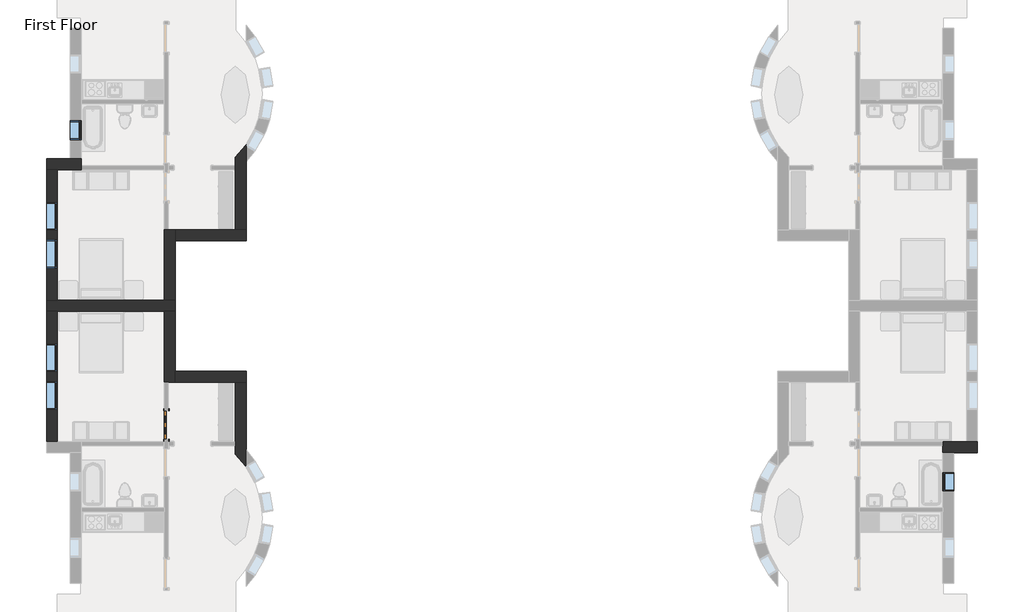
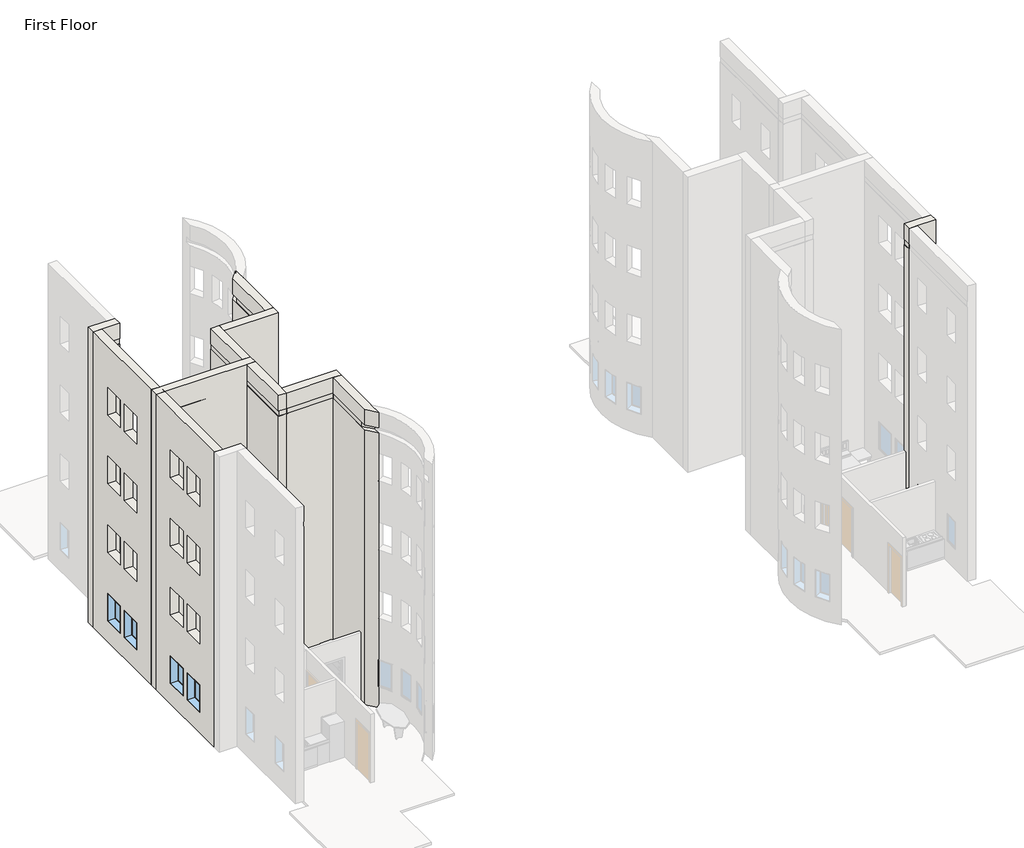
# One storey, part 8 of 24: 12 walls, 6 windows, 1 door.
"""IFC4 building model written with IfcOpenShell, lengths in millimetres."""

from ifc_helpers import new_model, si_unit, frame, origin, place, context, project, spatial, polyline, circle_curve, outline, extrude, faceted_brep, transform, mapped, element, save
from ifc_brep_helpers import plane_surface, revolved_surface, advanced_brep
from components import door_829da954, window_60baf983, window_15c49d37, window_0e2fc6ce

model = new_model("IFC4")

# Units and contexts
model_context = context("Model", 3, world=origin())
ifc_project = project(units=[si_unit("LENGTHUNIT", "METRE", prefix="MILLI")], contexts=[model_context])

# Site, building, storey
site = spatial("IfcSite", under=ifc_project)
building = spatial("IfcBuilding", under=site)
storey = spatial("IfcBuildingStorey", under=building, Name="First Floor", Elevation=0.0)

# Door
placement = place(None, origin())
door_shape = door_829da954(model_context)
element("IfcDoor", 1, ObjectType="Single-Decorative 2 : 36\" x 84\"", at=placement, inside=storey, context=model_context, shape_type="MappedRepresentation", body=[
    mapped(door_shape, transform((-26096.8839563, -15653.8558133, 0.0), x_axis=(0.0, -1.0, 0.0), y_axis=(1.0, 0.0, 0.0), z_axis=(0.0, 0.0, 1.0))),
])

# Walls
element("IfcWall", 2, ObjectType="Exterior - Brick on Mtl. Stud", at=placement, inside=storey, context=model_context, shape_type="Brep", body=[
    faceted_brep([(-29970.3839563, -11980.3808133, 0.0), (-29617.9589563, -11980.3808133, 0.0), (-26160.3839563, -11980.3808133, 0.0), (-25807.9589563, -11980.3808133, 0.0), (-25807.9589563, -11980.3808133, 13106.4), (-26160.3839563, -11980.3808133, 13106.4), (-29617.9589563, -11980.3808133, 13106.4), (-29970.3839563, -11980.3808133, 13106.4), (-25807.9589563, -11627.9558133, 0.0), (-26160.3839563, -11627.9558133, 0.0), (-29617.9589563, -11627.9558133, 0.0), (-29970.3839563, -11627.9558133, 0.0), (-29970.3839563, -11627.9558133, 13106.4), (-29617.9589563, -11627.9558133, 13106.4), (-26160.3839563, -11627.9558133, 13106.4), (-25807.9589563, -11627.9558133, 13106.4), (-29630.6589563, -11627.9558133, 12192.0), (-29617.9589563, -11627.9558133, 12192.0), (-26160.3839563, -11627.9558133, 12192.0), (-26147.6839563, -11627.9558133, 12192.0), (-26147.6839563, -11627.9558133, 12420.6), (-26160.3839563, -11627.9558133, 12420.6), (-29617.9589563, -11627.9558133, 12420.6), (-29630.6589563, -11627.9558133, 12420.6), (-29630.6589563, -11640.6558133, 12192.0), (-26147.6839563, -11640.6558133, 12192.0), (-26147.6839563, -11640.6558133, 12420.6), (-29630.6589563, -11640.6558133, 12420.6)], [[[0, 1, 2, 3, 4, 5, 6, 7]], [[8, 9, 10, 11, 12, 13, 14, 15], [16, 17, 18, 19, 20, 21, 22, 23]], [[3, 2, 1, 0, 11, 10, 9, 8]], [[7, 6, 5, 4, 15, 14, 13, 12]], [[4, 3, 8, 15]], [[0, 7, 12, 11]], [[24, 25, 19, 18, 17, 16]], [[26, 27, 23, 22, 21, 20]], [[25, 24, 27, 26]], [[27, 24, 16, 23]], [[25, 26, 20, 19]]]),
])
element("IfcWall", 3, ObjectType="Exterior - Brick on Mtl. Stud", at=placement, inside=storey, context=model_context, shape_type="Brep", body=[
    faceted_brep([(-25807.9589563, -11627.9558133, 0.0), (-25807.9589563, -9694.3808133, 0.0), (-25807.9589563, -9341.9558133, 0.0), (-25807.9589563, -9341.9558133, 12192.0), (-25807.9589563, -9354.6558133, 12192.0), (-25807.9589563, -9354.6558133, 12420.6), (-25807.9589563, -9341.9558133, 12420.6), (-25807.9589563, -9341.9558133, 13106.4), (-25807.9589563, -9694.3808133, 13106.4), (-25807.9589563, -11627.9558133, 13106.4), (-26160.3839563, -9341.9558133, 0.0), (-26160.3839563, -11627.9558133, 0.0), (-26160.3839563, -11627.9558133, 12192.0), (-26160.3839563, -9341.9558133, 12192.0), (-26160.3839563, -9341.9558133, 9144.0), (-26160.3839563, -9341.9558133, 6096.0), (-26160.3839563, -9341.9558133, 3048.0), (-26160.3839563, -11627.9558133, 13106.4), (-26160.3839563, -9341.9558133, 13106.4), (-26160.3839563, -9341.9558133, 12420.6), (-26160.3839563, -11627.9558133, 12420.6), (-26033.3839563, -9341.9558133, 0.0), (-26033.3839563, -9341.9558133, 12192.0), (-26147.6839563, -11627.9558133, 12420.6), (-26147.6839563, -11627.9558133, 12192.0), (-26147.6839563, -9354.6558133, 12192.0), (-26147.6839563, -9354.6558133, 12420.6)], [[[0, 1, 2, 3, 4, 5, 6, 7, 8, 9]], [[10, 11, 12, 13, 14, 15, 16]], [[17, 18, 19, 20]], [[2, 1, 0, 11, 10, 21]], [[9, 8, 7, 18, 17]], [[2, 21, 10, 16, 15, 14, 13, 22, 3]], [[18, 7, 6, 19]], [[0, 9, 17, 20, 23, 24, 12, 11]], [[24, 25, 4, 3, 22, 13, 12]], [[5, 26, 23, 20, 19, 6]], [[25, 26, 5, 4]], [[26, 25, 24, 23]]]),
])
element("IfcWall", 4, ObjectType="Exterior - Brick on Mtl. Stud", at=placement, inside=storey, context=model_context, shape_type="Brep", body=[
    faceted_brep([(-25807.9589563, -9694.3808133, 0.0), (-23521.9589563, -9694.3808133, 0.0), (-23521.9589563, -9694.3808133, 13106.4), (-25807.9589563, -9694.3808133, 13106.4), (-23521.9589563, -9341.9558133, 0.0), (-23874.3839563, -9341.9558133, 0.0), (-25807.9589563, -9341.9558133, 0.0), (-25807.9589563, -9341.9558133, 12192.0), (-23861.6839563, -9341.9558133, 12192.0), (-23861.6839563, -9341.9558133, 12420.6), (-25807.9589563, -9341.9558133, 12420.6), (-25807.9589563, -9341.9558133, 13106.4), (-23874.3839563, -9341.9558133, 13106.4), (-23521.9589563, -9341.9558133, 13106.4), (-25807.9589563, -9354.6558133, 12420.6), (-25807.9589563, -9354.6558133, 12192.0), (-23861.6839563, -9354.6558133, 12192.0), (-23861.6839563, -9354.6558133, 12420.6)], [[[0, 1, 2, 3]], [[4, 5, 6, 7, 8, 9, 10, 11, 12, 13]], [[1, 0, 6, 5, 4]], [[3, 2, 13, 12, 11]], [[2, 1, 4, 13]], [[0, 3, 11, 10, 14, 15, 7, 6]], [[15, 16, 8, 7]], [[9, 17, 14, 10]], [[16, 17, 9, 8]], [[17, 16, 15, 14]]]),
])
element("IfcWall", 5, ObjectType="Exterior - Brick on Mtl. Stud", at=placement, inside=storey, context=model_context, shape_type="AdvancedBrep", body=[
    advanced_brep(
    [(-23521.9589563, -9341.9558133, 0.0), (-23521.9589563, -7150.5535473, 0.0), (-23521.9589563, -6592.6589631, 0.0), (-23521.9589563, -6592.6589631, 914.4), (-23521.9589563, -6641.947211, 914.4), (-23521.9589563, -6641.947211, 2133.6), (-23521.9589563, -6592.6589631, 2133.6), (-23521.9589563, -6592.6589631, 3962.4), (-23521.9589563, -6641.947211, 3962.4), (-23521.9589563, -6641.947211, 5181.6), (-23521.9589563, -6592.6589631, 5181.6), (-23521.9589563, -6592.6589631, 7010.4), (-23521.9589563, -6641.947211, 7010.4), (-23521.9589563, -6641.947211, 8229.6), (-23521.9589563, -6592.6589631, 8229.6), (-23521.9589563, -6592.6589631, 10058.4), (-23521.9589563, -6641.947211, 10058.4), (-23521.9589563, -6641.947211, 11277.6), (-23521.9589563, -6592.6589631, 11277.6), (-23521.9589563, -6592.6589631, 12192.0), (-23521.9589563, -6901.1458841, 12192.0), (-23521.9589563, -6901.1458841, 12420.6), (-23521.9589563, -6592.6589631, 12420.6), (-23521.9589563, -6592.6589631, 13106.4), (-23521.9589563, -7150.5535473, 13106.4), (-23521.9589563, -9341.9558133, 13106.4), (-23874.3839563, -7006.552661, 0.0), (-23874.3839563, -7281.3808133, 0.0), (-23874.3839563, -7408.3808133, 0.0), (-23874.3839563, -9341.9558133, 0.0), (-23874.3839563, -9341.9558133, 12192.0), (-23874.3839563, -7408.3808133, 12192.0), (-23874.3839563, -7281.3808133, 12192.0), (-23874.3839563, -7006.552661, 12192.0), (-23874.3839563, -9341.9558133, 13106.4), (-23874.3839563, -7006.552661, 13106.4), (-23874.3839563, -7006.552661, 12420.6), (-23874.3839563, -9341.9558133, 12420.6), (-23527.515008, -6600.5704649, 11277.6), (-23527.515008, -6600.5704649, 10058.4), (-23527.515008, -6600.5704649, 8229.6), (-23527.515008, -6600.5704649, 7010.4), (-23527.515008, -6600.5704649, 5181.6), (-23527.515008, -6600.5704649, 3962.4), (-23527.515008, -6600.5704649, 2133.6), (-23527.515008, -6600.5704649, 914.4), (-23861.6839563, -9341.9558133, 12420.6), (-23861.6839563, -9341.9558133, 12192.0), (-23543.9721676, -6629.3664793, 2133.6), (-23543.9721676, -6629.3664793, 914.4), (-23543.9721676, -6629.3664793, 11277.6), (-23543.9721676, -6629.3664793, 10058.4), (-23543.9721676, -6629.3664793, 5181.6), (-23543.9721676, -6629.3664793, 3962.4), (-23543.9721676, -6629.3664793, 8229.6), (-23543.9721676, -6629.3664793, 7010.4), (-23861.6839563, -7249.4736866, 12192.0), (-23861.6839563, -7249.4736866, 12420.6)],
    [
        (0, 1),
        (1, 2),
        (2, 3),
        (3, 4),
        (4, 5),
        (5, 6),
        (6, 7),
        (7, 8),
        (8, 9),
        (9, 10),
        (10, 11),
        (11, 12),
        (12, 13),
        (13, 14),
        (14, 15),
        (15, 16),
        (16, 17),
        (17, 18),
        (18, 19),
        (19, 20),
        (20, 21),
        (21, 22),
        (22, 23),
        (23, 24),
        (24, 25),
        (25, 0),
        (26, 27),
        (27, 28),
        (28, 29),
        (29, 30),
        (30, 31),
        (31, 32),
        (32, 33),
        (33, 26),
        (34, 35),
        (35, 36),
        (36, 37),
        (37, 34),
        (0, 29),
        (26, 2, circle_curve(frame((-25874.8788413, -4946.1683133, 0.0), z_axis=(0.0, 0.0, 1.0), x_axis=(0.0, 1.0, 0.0)), 2871.7875)),
        (23, 35, circle_curve(frame((-25874.8788413, -4946.1683133, 13106.4), z_axis=(0.0, 0.0, -1.0), x_axis=(0.0, 1.0, 0.0)), 2871.7875)),
        (34, 25),
        (33, 19, circle_curve(frame((-25874.8788413, -4946.1683133, 12192.0), z_axis=(0.0, 0.0, 1.0), x_axis=(0.0, 1.0, 0.0)), 2871.7875)),
        (18, 38, circle_curve(frame((-25874.8788413, -4946.1683133, 11277.6), z_axis=(0.0, 0.0, -1.0), x_axis=(0.0, 1.0, 0.0)), 2871.7875)),
        (38, 39),
        (39, 15, circle_curve(frame((-25874.8788413, -4946.1683133, 10058.4), z_axis=(0.0, 0.0, 1.0), x_axis=(0.0, 1.0, 0.0)), 2871.7875)),
        (14, 40, circle_curve(frame((-25874.8788413, -4946.1683133, 8229.6), z_axis=(0.0, 0.0, -1.0), x_axis=(0.0, 1.0, 0.0)), 2871.7875)),
        (40, 41),
        (41, 11, circle_curve(frame((-25874.8788413, -4946.1683133, 7010.4), z_axis=(0.0, 0.0, 1.0), x_axis=(0.0, 1.0, 0.0)), 2871.7875)),
        (10, 42, circle_curve(frame((-25874.8788413, -4946.1683133, 5181.6), z_axis=(0.0, 0.0, -1.0), x_axis=(0.0, 1.0, 0.0)), 2871.7875)),
        (42, 43),
        (43, 7, circle_curve(frame((-25874.8788413, -4946.1683133, 3962.4), z_axis=(0.0, 0.0, 1.0), x_axis=(0.0, 1.0, 0.0)), 2871.7875)),
        (6, 44, circle_curve(frame((-25874.8788413, -4946.1683133, 2133.6), z_axis=(0.0, 0.0, -1.0), x_axis=(0.0, 1.0, 0.0)), 2871.7875)),
        (44, 45),
        (45, 3, circle_curve(frame((-25874.8788413, -4946.1683133, 914.4), z_axis=(0.0, 0.0, 1.0), x_axis=(0.0, 1.0, 0.0)), 2871.7875)),
        (22, 36, circle_curve(frame((-25874.8788413, -4946.1683133, 12420.6), z_axis=(0.0, 0.0, -1.0), x_axis=(0.0, 1.0, 0.0)), 2871.7875)),
        (37, 46),
        (46, 47),
        (47, 30),
        (48, 49),
        (49, 45),
        (44, 48),
        (49, 4),
        (48, 5),
        (50, 51),
        (51, 39),
        (38, 50),
        (51, 16),
        (50, 17),
        (52, 53),
        (53, 43),
        (42, 52),
        (53, 8),
        (52, 9),
        (54, 55),
        (55, 41),
        (40, 54),
        (55, 12),
        (54, 13),
        (47, 56),
        (56, 20, circle_curve(frame((-25874.8788413, -4946.1683133, 12192.0), z_axis=(0.0, 0.0, 1.0), x_axis=(0.0, -1.0, 0.0)), 3059.1125)),
        (21, 57, circle_curve(frame((-25874.8788413, -4946.1683133, 12420.6), z_axis=(0.0, 0.0, -1.0), x_axis=(0.0, -1.0, 0.0)), 3059.1125)),
        (57, 46),
        (56, 57),
    ],
    [
        plane_surface(frame((-23521.9589563, -9518.1683133, 0.0), z_axis=(1.0, 0.0, 0.0), x_axis=(0.0, 1.0, 0.0))),
        plane_surface(frame((-23874.3839563, -9518.1683133, 0.0), z_axis=(-1.0, 0.0, 0.0), x_axis=(0.0, -1.0, 0.0))),
        plane_surface(frame((-23521.9589563, -9518.1683133, 0.0), z_axis=(0.0, 0.0, -1.0), x_axis=(-1.0, 0.0, 0.0))),
        plane_surface(frame((-23521.9589563, -7079.7683133, 13106.4), z_axis=(0.0, 0.0, 1.0), x_axis=(-1.0, 0.0, 0.0))),
        revolved_surface(polyline([(-25874.8788413, -2074.3808132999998, 0.0), (-25874.8788413, -2074.3808132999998, 12192.0)]), (-25874.8788413, -4946.1683133, 0.0), (0.0, 0.0, -1.0)),
        revolved_surface(polyline([(-25874.8788413, -2074.3808132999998, 12420.6), (-25874.8788413, -2074.3808132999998, 13106.4)]), (-25874.8788413, -4946.1683133, 0.0), (0.0, 0.0, -1.0)),
        plane_surface(frame((-25984.1714563, -9341.9558133, 0.0), z_axis=(0.0, -1.0, 0.0), x_axis=(-1.0, 0.0, 0.0))),
        plane_surface(frame((-23241.4940834, -6100.1036253, 2133.6), z_axis=(0.8682133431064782, -0.496191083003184, 0.0), x_axis=(0.0, 0.0, -1.0))),
        plane_surface(frame((-23241.4940834, -6100.1036253, 914.4), z_axis=(0.0, 0.0, 1.0000000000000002), x_axis=(0.8682133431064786, -0.4961910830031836, 0.0))),
        plane_surface(frame((-23543.9721676, -6629.3664793, 914.4), z_axis=(0.49619108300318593, 0.8682133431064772, 0.0), x_axis=(0.8682133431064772, -0.49619108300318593, 0.0))),
        plane_surface(frame((-23543.9721676, -6629.3664793, 2133.6), z_axis=(0.0, 0.0, -1.0), x_axis=(0.8682133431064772, -0.49619108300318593, 0.0))),
        plane_surface(frame((-23241.4940834, -6100.1036253, 11277.6), z_axis=(0.8682133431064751, -0.4961910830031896, 0.0), x_axis=(0.0, 0.0, -1.0))),
        plane_surface(frame((-23241.4940834, -6100.1036253, 10058.4), z_axis=(0.0, 0.0, 1.0000000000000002), x_axis=(0.8682133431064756, -0.4961910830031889, 0.0))),
        plane_surface(frame((-23543.9721676, -6629.3664793, 10058.4), z_axis=(0.4961910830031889, 0.8682133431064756, 0.0), x_axis=(0.8682133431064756, -0.4961910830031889, 0.0))),
        plane_surface(frame((-23543.9721676, -6629.3664793, 11277.6), z_axis=(0.0, 0.0, -1.0000000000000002), x_axis=(0.8682133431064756, -0.4961910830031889, 0.0))),
        plane_surface(frame((-23241.4940834, -6100.1036253, 5181.6), z_axis=(0.8682133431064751, -0.4961910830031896, 0.0), x_axis=(0.0, 0.0, -1.0))),
        plane_surface(frame((-23241.4940834, -6100.1036253, 3962.4), z_axis=(0.0, 0.0, 1.0000000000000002), x_axis=(0.8682133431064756, -0.4961910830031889, 0.0))),
        plane_surface(frame((-23543.9721676, -6629.3664793, 3962.4), z_axis=(0.4961910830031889, 0.8682133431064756, 0.0), x_axis=(0.8682133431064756, -0.4961910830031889, 0.0))),
        plane_surface(frame((-23543.9721676, -6629.3664793, 5181.6), z_axis=(0.0, 0.0, -1.0000000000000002), x_axis=(0.8682133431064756, -0.4961910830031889, 0.0))),
        plane_surface(frame((-23241.4940834, -6100.1036253, 8229.6), z_axis=(0.8682133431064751, -0.4961910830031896, 0.0), x_axis=(0.0, 0.0, -1.0))),
        plane_surface(frame((-23241.4940834, -6100.1036253, 7010.4), z_axis=(0.0, 0.0, 1.0000000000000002), x_axis=(0.8682133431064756, -0.4961910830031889, 0.0))),
        plane_surface(frame((-23543.9721676, -6629.3664793, 7010.4), z_axis=(0.4961910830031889, 0.8682133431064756, 0.0), x_axis=(0.8682133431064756, -0.4961910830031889, 0.0))),
        plane_surface(frame((-23543.9721676, -6629.3664793, 8229.6), z_axis=(0.0, 0.0, -1.0000000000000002), x_axis=(0.8682133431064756, -0.4961910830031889, 0.0))),
        plane_surface(frame((-29630.6589563, -11640.6558133, 12192.0), z_axis=(0.0, 0.0, 1.0), x_axis=(1.0, 0.0, 0.0))),
        plane_surface(frame((-29630.6589563, -11640.6558133, 12420.6), z_axis=(0.0, 0.0, -1.0), x_axis=(1.0, 0.0, 0.0))),
        revolved_surface(polyline([(-25874.8788413, -8005.2808133, 12420.6), (-25874.8788413, -8005.2808133, 12192.0)]), (-25874.8788413, -4946.1683133, 12192.0), (0.0, 0.0, 1.0)),
        plane_surface(frame((-23861.6839563, -9354.6558133, 12192.0), z_axis=(-1.0, 0.0, 0.0), x_axis=(0.0, 1.0, 0.0))),
    ],
    [
        (0, [[1, 2, 3, 4, 5, 6, 7, 8, 9, 10, 11, 12, 13, 14, 15, 16, 17, 18, 19, 20, 21, 22, 23, 24, 25, 26]]),
        (1, [[27, 28, 29, 30, 31, 32, 33, 34]]),
        (1, [[35, 36, 37, 38]]),
        (2, [[-2, -1, 39, -29, -28, -27, 40]]),
        (3, [[-25, -24, 41, -35, 42]]),
        (4, [[-40, -34, 43, -19, 44, 45, 46, -15, 47, 48, 49, -11, 50, 51, 52, -7, 53, 54, 55, -3]]),
        (5, [[-41, -23, 56, -36]]),
        (6, [[-26, -42, -38, 57, 58, 59, -30, -39]]),
        (7, [[60, 61, -54, 62]]),
        (8, [[63, -4, -55, -61]]),
        (9, [[-60, 64, -5, -63]]),
        (10, [[-64, -62, -53, -6]]),
        (11, [[65, 66, -45, 67]]),
        (12, [[68, -16, -46, -66]]),
        (13, [[-65, 69, -17, -68]]),
        (14, [[-69, -67, -44, -18]]),
        (15, [[70, 71, -51, 72]]),
        (16, [[73, -8, -52, -71]]),
        (17, [[-70, 74, -9, -73]]),
        (18, [[-74, -72, -50, -10]]),
        (19, [[75, 76, -48, 77]]),
        (20, [[78, -12, -49, -76]]),
        (21, [[-75, 79, -13, -78]]),
        (22, [[-79, -77, -47, -14]]),
        (23, [[80, 81, -20, -43, -33, -32, -31, -59]]),
        (24, [[82, 83, -57, -37, -56, -22]]),
        (25, [[84, -82, -21, -81]]),
        (26, [[-84, -80, -58, -83]]),
    ],
),
])
element("IfcWall", 6, ObjectType="Exterior - Brick on Mtl. Stud", at=placement, inside=storey, context=model_context, shape_type="Brep", body=[
    faceted_brep([(-29617.9589563, -11627.9558133, 0.0), (-29617.9589563, -7408.3808133, 0.0), (-29617.9589563, -7408.3808133, 12192.0), (-29617.9589563, -11627.9558133, 12192.0), (-29617.9589563, -9365.7683133, 7010.4), (-29617.9589563, -9365.7683133, 8229.6), (-29617.9589563, -8451.3683133, 8229.6), (-29617.9589563, -8451.3683133, 7010.4), (-29617.9589563, -10584.9683133, 7010.4), (-29617.9589563, -10584.9683133, 8229.6), (-29617.9589563, -9670.5683133, 8229.6), (-29617.9589563, -9670.5683133, 7010.4), (-29617.9589563, -9365.7683133, 3962.4), (-29617.9589563, -9365.7683133, 5181.6), (-29617.9589563, -8451.3683133, 5181.6), (-29617.9589563, -8451.3683133, 3962.4), (-29617.9589563, -10584.9683133, 3962.4), (-29617.9589563, -10584.9683133, 5181.6), (-29617.9589563, -9670.5683133, 5181.6), (-29617.9589563, -9670.5683133, 3962.4), (-29617.9589563, -9365.7683133, 10058.4), (-29617.9589563, -9365.7683133, 11277.6), (-29617.9589563, -8451.3683133, 11277.6), (-29617.9589563, -8451.3683133, 10058.4), (-29617.9589563, -10584.9683133, 10058.4), (-29617.9589563, -10584.9683133, 11277.6), (-29617.9589563, -9670.5683133, 11277.6), (-29617.9589563, -9670.5683133, 10058.4), (-29617.9589563, -9365.7683133, 914.4), (-29617.9589563, -9365.7683133, 2133.6), (-29617.9589563, -8451.3683133, 2133.6), (-29617.9589563, -8451.3683133, 914.4), (-29617.9589563, -10584.9683133, 914.4), (-29617.9589563, -10584.9683133, 2133.6), (-29617.9589563, -9670.5683133, 2133.6), (-29617.9589563, -9670.5683133, 914.4), (-29617.9589563, -7408.3808133, 13106.4), (-29617.9589563, -11627.9558133, 13106.4), (-29617.9589563, -11627.9558133, 12420.6), (-29617.9589563, -7408.3808133, 12420.6), (-29970.3839563, -7408.3808133, 0.0), (-29970.3839563, -11627.9558133, 0.0), (-29970.3839563, -11627.9558133, 13106.4), (-29970.3839563, -7408.3808133, 13106.4), (-29970.3839563, -9365.7683133, 8229.6), (-29970.3839563, -9365.7683133, 7010.4), (-29970.3839563, -8451.3683133, 7010.4), (-29970.3839563, -8451.3683133, 8229.6), (-29970.3839563, -10584.9683133, 8229.6), (-29970.3839563, -10584.9683133, 7010.4), (-29970.3839563, -9670.5683133, 7010.4), (-29970.3839563, -9670.5683133, 8229.6), (-29970.3839563, -9365.7683133, 5181.6), (-29970.3839563, -9365.7683133, 3962.4), (-29970.3839563, -8451.3683133, 3962.4), (-29970.3839563, -8451.3683133, 5181.6), (-29970.3839563, -10584.9683133, 5181.6), (-29970.3839563, -10584.9683133, 3962.4), (-29970.3839563, -9670.5683133, 3962.4), (-29970.3839563, -9670.5683133, 5181.6), (-29970.3839563, -9365.7683133, 11277.6), (-29970.3839563, -9365.7683133, 10058.4), (-29970.3839563, -8451.3683133, 10058.4), (-29970.3839563, -8451.3683133, 11277.6), (-29970.3839563, -10584.9683133, 11277.6), (-29970.3839563, -10584.9683133, 10058.4), (-29970.3839563, -9670.5683133, 10058.4), (-29970.3839563, -9670.5683133, 11277.6), (-29970.3839563, -9365.7683133, 2133.6), (-29970.3839563, -9365.7683133, 914.4), (-29970.3839563, -8451.3683133, 914.4), (-29970.3839563, -8451.3683133, 2133.6), (-29970.3839563, -10584.9683133, 2133.6), (-29970.3839563, -10584.9683133, 914.4), (-29970.3839563, -9670.5683133, 914.4), (-29970.3839563, -9670.5683133, 2133.6), (-29630.6589563, -11627.9558133, 12192.0), (-29630.6589563, -11627.9558133, 12420.6), (-29630.6589563, -7408.3808133, 12420.6), (-29630.6589563, -7408.3808133, 12192.0)], [[[0, 1, 2, 3], [4, 5, 6, 7], [8, 9, 10, 11], [12, 13, 14, 15], [16, 17, 18, 19], [20, 21, 22, 23], [24, 25, 26, 27], [28, 29, 30, 31], [32, 33, 34, 35]], [[36, 37, 38, 39]], [[40, 41, 42, 43], [44, 45, 46, 47], [48, 49, 50, 51], [52, 53, 54, 55], [56, 57, 58, 59], [60, 61, 62, 63], [64, 65, 66, 67], [68, 69, 70, 71], [72, 73, 74, 75]], [[1, 0, 41, 40]], [[37, 36, 43, 42]], [[37, 42, 41, 0, 3, 76, 77, 38]], [[1, 40, 43, 36, 39, 78, 79, 2]], [[45, 44, 5, 4]], [[46, 45, 4, 7]], [[47, 46, 7, 6]], [[44, 47, 6, 5]], [[49, 48, 9, 8]], [[50, 49, 8, 11]], [[51, 50, 11, 10]], [[48, 51, 10, 9]], [[53, 52, 13, 12]], [[54, 53, 12, 15]], [[55, 54, 15, 14]], [[52, 55, 14, 13]], [[57, 56, 17, 16]], [[58, 57, 16, 19]], [[59, 58, 19, 18]], [[56, 59, 18, 17]], [[61, 60, 21, 20]], [[62, 61, 20, 23]], [[63, 62, 23, 22]], [[60, 63, 22, 21]], [[65, 64, 25, 24]], [[66, 65, 24, 27]], [[67, 66, 27, 26]], [[64, 67, 26, 25]], [[69, 68, 29, 28]], [[70, 69, 28, 31]], [[71, 70, 31, 30]], [[68, 71, 30, 29]], [[73, 72, 33, 32]], [[74, 73, 32, 35]], [[75, 74, 35, 34]], [[72, 75, 34, 33]], [[79, 76, 3, 2]], [[77, 78, 39, 38]], [[76, 79, 78, 77]]]),
])
element("IfcWall", 7, ObjectType="Exterior - Brick on Mtl. Stud", at=placement, inside=storey, context=model_context, shape_type="Brep", body=[
    faceted_brep([(-29970.3839563, -7408.3808133, 0.0), (-29617.9589563, -7408.3808133, 0.0), (-28855.9589563, -7408.3808133, 0.0), (-28855.9589563, -7408.3808133, 3048.0), (-28855.9589563, -7408.3808133, 6096.0), (-28855.9589563, -7408.3808133, 9144.0), (-28855.9589563, -7408.3808133, 12192.0), (-29617.9589563, -7408.3808133, 12192.0), (-29630.6589563, -7408.3808133, 12192.0), (-29630.6589563, -7408.3808133, 12420.6), (-29617.9589563, -7408.3808133, 12420.6), (-28855.9589563, -7408.3808133, 12420.6), (-28855.9589563, -7408.3808133, 13106.4), (-29617.9589563, -7408.3808133, 13106.4), (-29970.3839563, -7408.3808133, 13106.4), (-28855.9589563, -7055.9558133, 0.0), (-29208.3839563, -7055.9558133, 0.0), (-29970.3839563, -7055.9558133, 0.0), (-29970.3839563, -7055.9558133, 13106.4), (-29208.3839563, -7055.9558133, 13106.4), (-28855.9589563, -7055.9558133, 13106.4), (-28855.9589563, -7055.9558133, 12420.6), (-28868.6589563, -7055.9558133, 12420.6), (-28868.6589563, -7055.9558133, 12192.0), (-28855.9589563, -7055.9558133, 12192.0), (-28855.9589563, -7281.3808133, 0.0), (-28855.9589563, -7281.3808133, 12192.0), (-28868.6589563, -7395.6808133, 12192.0), (-29630.6589563, -7395.6808133, 12192.0), (-29630.6589563, -7395.6808133, 12420.6), (-28868.6589563, -7395.6808133, 12420.6)], [[[0, 1, 2, 3, 4, 5, 6, 7, 8, 9, 10, 11, 12, 13, 14]], [[15, 16, 17, 18, 19, 20, 21, 22, 23, 24]], [[2, 1, 0, 17, 16, 15, 25]], [[14, 13, 12, 20, 19, 18]], [[0, 14, 18, 17]], [[2, 25, 15, 24, 26, 6, 5, 4, 3]], [[20, 12, 11, 21]], [[27, 28, 8, 7, 6, 26, 24, 23]], [[29, 30, 22, 21, 11, 10, 9]], [[28, 29, 9, 8]], [[28, 27, 30, 29]], [[30, 27, 23, 22]]]),
])
element("IfcWall", 8, ObjectType="Exterior - Brick on Mtl. Stud", at=placement, inside=storey, context=model_context, shape_type="Brep", body=[
    faceted_brep([(100.0410437, -16199.9558133, 0.0), (-252.3839563, -16199.9558133, 0.0), (-1014.3839563, -16199.9558133, 0.0), (-1014.3839563, -16199.9558133, 3048.0), (-1014.3839563, -16199.9558133, 6096.0), (-1014.3839563, -16199.9558133, 9144.0), (-1014.3839563, -16199.9558133, 12192.0), (-252.3839563, -16199.9558133, 12192.0), (-239.6839563, -16199.9558133, 12192.0), (-239.6839563, -16199.9558133, 12420.6), (-252.3839563, -16199.9558133, 12420.6), (-1014.3839563, -16199.9558133, 12420.6), (-1014.3839563, -16199.9558133, 13106.4), (-252.3839563, -16199.9558133, 13106.4), (100.0410437, -16199.9558133, 13106.4), (-1014.3839563, -16552.3808133, 0.0), (-661.9589563, -16552.3808133, 0.0), (100.0410437, -16552.3808133, 0.0), (100.0410437, -16552.3808133, 13106.4), (-661.9589563, -16552.3808133, 13106.4), (-1014.3839563, -16552.3808133, 13106.4), (-1014.3839563, -16552.3808133, 12420.6), (-1001.6839563, -16552.3808133, 12420.6), (-1001.6839563, -16552.3808133, 12192.0), (-1014.3839563, -16552.3808133, 12192.0), (-1014.3839563, -16326.9558133, 0.0), (-1014.3839563, -16326.9558133, 12192.0), (-1001.6839563, -16212.6558133, 12192.0), (-239.6839563, -16212.6558133, 12192.0), (-239.6839563, -16212.6558133, 12420.6), (-1001.6839563, -16212.6558133, 12420.6)], [[[0, 1, 2, 3, 4, 5, 6, 7, 8, 9, 10, 11, 12, 13, 14]], [[15, 16, 17, 18, 19, 20, 21, 22, 23, 24]], [[2, 1, 0, 17, 16, 15, 25]], [[14, 13, 12, 20, 19, 18]], [[0, 14, 18, 17]], [[2, 25, 15, 24, 26, 6, 5, 4, 3]], [[20, 12, 11, 21]], [[27, 28, 8, 7, 6, 26, 24, 23]], [[29, 30, 22, 21, 11, 10, 9]], [[28, 29, 9, 8]], [[28, 27, 30, 29]], [[30, 27, 23, 22]]]),
])
element("IfcWall", 9, ObjectType="Exterior - Brick on Mtl. Stud", at=placement, inside=storey, context=model_context, shape_type="SweptSolid", body=[
    extrude(outline(polyline([(-11980.3808133, 13106.4), (-11627.9558133, 13106.4), (-11627.9558133, 0.0), (-11980.3808133, 0.0), (-11980.3808133, 12192.0), (-11967.6808133, 12192.0), (-11967.6808133, 12420.6), (-11980.3808133, 12420.6), (-11980.3808133, 13106.4)])), frame((-29617.9589563, 0.0, 0.0), z_axis=(1.0, 0.0, 0.0), x_axis=(0.0, 1.0, 0.0)), (0.0, 0.0, 1.0), 3457.575),
])
element("IfcWall", 10, ObjectType="Exterior - Brick on Mtl. Stud", at=placement, inside=storey, context=model_context, shape_type="Brep", body=[
    faceted_brep([(-26160.3839563, -11980.3808133, 0.0), (-26160.3839563, -14266.3808133, 0.0), (-26160.3839563, -14266.3808133, 3048.0), (-26160.3839563, -14266.3808133, 6096.0), (-26160.3839563, -14266.3808133, 9144.0), (-26160.3839563, -14266.3808133, 12192.0), (-26160.3839563, -11980.3808133, 12192.0), (-26160.3839563, -14266.3808133, 13106.4), (-26160.3839563, -11980.3808133, 13106.4), (-26160.3839563, -11980.3808133, 12420.6), (-26160.3839563, -14266.3808133, 12420.6), (-25807.9589563, -14266.3808133, 0.0), (-25807.9589563, -13913.9558133, 0.0), (-25807.9589563, -11980.3808133, 0.0), (-25807.9589563, -11980.3808133, 13106.4), (-25807.9589563, -13913.9558133, 13106.4), (-25807.9589563, -14266.3808133, 13106.4), (-25807.9589563, -14266.3808133, 12420.6), (-25807.9589563, -14253.6808133, 12420.6), (-25807.9589563, -14253.6808133, 12192.0), (-25807.9589563, -14266.3808133, 12192.0), (-26033.3839563, -14266.3808133, 0.0), (-26033.3839563, -14266.3808133, 12192.0), (-26147.6839563, -11980.3808133, 12192.0), (-26147.6839563, -11980.3808133, 12420.6), (-26147.6839563, -14253.6808133, 12192.0), (-26147.6839563, -14253.6808133, 12420.6)], [[[0, 1, 2, 3, 4, 5, 6]], [[7, 8, 9, 10]], [[11, 12, 13, 14, 15, 16, 17, 18, 19, 20]], [[1, 0, 13, 12, 11, 21]], [[8, 7, 16, 15, 14]], [[1, 21, 11, 20, 22, 5, 4, 3, 2]], [[16, 7, 10, 17]], [[8, 14, 13, 0, 6, 23, 24, 9]], [[19, 25, 23, 6, 5, 22, 20]], [[24, 26, 18, 17, 10, 9]], [[26, 25, 19, 18]], [[25, 26, 24, 23]]]),
])
element("IfcWall", 11, ObjectType="Exterior - Brick on Mtl. Stud", at=placement, inside=storey, context=model_context, shape_type="Brep", body=[
    faceted_brep([(-25807.9589563, -14266.3808133, 0.0), (-23874.3839563, -14266.3808133, 0.0), (-23521.9589563, -14266.3808133, 0.0), (-23521.9589563, -14266.3808133, 13106.4), (-23874.3839563, -14266.3808133, 13106.4), (-25807.9589563, -14266.3808133, 13106.4), (-25807.9589563, -14266.3808133, 12420.6), (-23874.3839563, -14266.3808133, 12420.6), (-23861.6839563, -14266.3808133, 12420.6), (-23861.6839563, -14266.3808133, 12192.0), (-23874.3839563, -14266.3808133, 12192.0), (-25807.9589563, -14266.3808133, 12192.0), (-23521.9589563, -13913.9558133, 0.0), (-25807.9589563, -13913.9558133, 0.0), (-25807.9589563, -13913.9558133, 13106.4), (-23521.9589563, -13913.9558133, 13106.4), (-25807.9589563, -14253.6808133, 12192.0), (-25807.9589563, -14253.6808133, 12420.6), (-23861.6839563, -14253.6808133, 12192.0), (-23861.6839563, -14253.6808133, 12420.6)], [[[0, 1, 2, 3, 4, 5, 6, 7, 8, 9, 10, 11]], [[12, 13, 14, 15]], [[2, 1, 0, 13, 12]], [[5, 4, 3, 15, 14]], [[3, 2, 12, 15]], [[5, 14, 13, 0, 11, 16, 17, 6]], [[9, 18, 16, 11, 10]], [[17, 19, 8, 7, 6]], [[19, 18, 9, 8]], [[18, 19, 17, 16]]]),
])
element("IfcWall", 12, ObjectType="Exterior - Brick on Mtl. Stud", at=placement, inside=storey, context=model_context, shape_type="AdvancedBrep", body=[
    advanced_brep(
    [(-23874.3839563, -14266.3808133, 0.0), (-23874.3839563, -16199.9558133, 0.0), (-23874.3839563, -16326.9558133, 0.0), (-23874.3839563, -16601.7839656, 0.0), (-23874.3839563, -16601.7839656, 12192.0), (-23874.3839563, -16326.9558133, 12192.0), (-23874.3839563, -16199.9558133, 12192.0), (-23874.3839563, -14266.3808133, 12192.0), (-23874.3839563, -16601.7839656, 13106.4), (-23874.3839563, -14266.3808133, 13106.4), (-23874.3839563, -14266.3808133, 12420.6), (-23874.3839563, -16601.7839656, 12420.6), (-23521.9589563, -17015.6776635, 0.0), (-23521.9589563, -16457.7830793, 0.0), (-23521.9589563, -14266.3808133, 0.0), (-23521.9589563, -14266.3808133, 13106.4), (-23521.9589563, -16457.7830793, 13106.4), (-23521.9589563, -17015.6776635, 13106.4), (-23521.9589563, -17015.6776635, 12420.6), (-23521.9589563, -16707.1907425, 12420.6), (-23521.9589563, -16707.1907425, 12192.0), (-23521.9589563, -17015.6776635, 12192.0), (-23521.9589563, -17015.6776635, 11277.6), (-23521.9589563, -16966.3894156, 11277.6), (-23521.9589563, -16966.3894156, 10058.4), (-23521.9589563, -17015.6776635, 10058.4), (-23521.9589563, -17015.6776635, 8229.6), (-23521.9589563, -16966.3894156, 8229.6), (-23521.9589563, -16966.3894156, 7010.4), (-23521.9589563, -17015.6776635, 7010.4), (-23521.9589563, -17015.6776635, 5181.6), (-23521.9589563, -16966.3894156, 5181.6), (-23521.9589563, -16966.3894156, 3962.4), (-23521.9589563, -17015.6776635, 3962.4), (-23521.9589563, -17015.6776635, 2133.6), (-23521.9589563, -16966.3894156, 2133.6), (-23521.9589563, -16966.3894156, 914.4), (-23521.9589563, -17015.6776635, 914.4), (-23527.428547, -17007.8888446, 914.4), (-23527.428547, -17007.8888446, 2133.6), (-23527.428547, -17007.8888446, 3962.4), (-23527.428547, -17007.8888446, 5181.6), (-23527.428547, -17007.8888446, 7010.4), (-23527.428547, -17007.8888446, 8229.6), (-23527.428547, -17007.8888446, 10058.4), (-23527.428547, -17007.8888446, 11277.6), (-23861.6839563, -14266.3808133, 12192.0), (-23861.6839563, -14266.3808133, 12420.6), (-23543.9598455, -16978.9631051, 914.4), (-23543.9598455, -16978.9631051, 2133.6), (-23543.9598455, -16978.9631051, 10058.4), (-23543.9598455, -16978.9631051, 11277.6), (-23543.9598455, -16978.9631051, 3962.4), (-23543.9598455, -16978.9631051, 5181.6), (-23543.9598455, -16978.9631051, 7010.4), (-23543.9598455, -16978.9631051, 8229.6), (-23861.6839563, -16358.86294, 12192.0), (-23861.6839563, -16358.86294, 12420.6)],
    [
        (0, 1),
        (1, 2),
        (2, 3),
        (3, 4),
        (4, 5),
        (5, 6),
        (6, 7),
        (7, 0),
        (8, 9),
        (9, 10),
        (10, 11),
        (11, 8),
        (12, 13),
        (13, 14),
        (14, 15),
        (15, 16),
        (16, 17),
        (17, 18),
        (18, 19),
        (19, 20),
        (20, 21),
        (21, 22),
        (22, 23),
        (23, 24),
        (24, 25),
        (25, 26),
        (26, 27),
        (27, 28),
        (28, 29),
        (29, 30),
        (30, 31),
        (31, 32),
        (32, 33),
        (33, 34),
        (34, 35),
        (35, 36),
        (36, 37),
        (37, 12),
        (0, 14),
        (12, 3, circle_curve(frame((-25874.8788413, -18662.1683133, 0.0), z_axis=(0.0, 0.0, 1.0), x_axis=(0.0, -1.0, 0.0)), 2871.7875)),
        (8, 17, circle_curve(frame((-25874.8788413, -18662.1683133, 13106.4), z_axis=(0.0, 0.0, -1.0), x_axis=(0.0, -1.0, 0.0)), 2871.7875)),
        (15, 9),
        (37, 38, circle_curve(frame((-25874.8788413, -18662.1683133, 914.4), z_axis=(0.0, 0.0, 1.0), x_axis=(0.0, -1.0, 0.0)), 2871.7875)),
        (38, 39),
        (39, 34, circle_curve(frame((-25874.8788413, -18662.1683133, 2133.6), z_axis=(0.0, 0.0, -1.0), x_axis=(0.0, -1.0, 0.0)), 2871.7875)),
        (33, 40, circle_curve(frame((-25874.8788413, -18662.1683133, 3962.4), z_axis=(0.0, 0.0, 1.0), x_axis=(0.0, -1.0, 0.0)), 2871.7875)),
        (40, 41),
        (41, 30, circle_curve(frame((-25874.8788413, -18662.1683133, 5181.6), z_axis=(0.0, 0.0, -1.0), x_axis=(0.0, -1.0, 0.0)), 2871.7875)),
        (29, 42, circle_curve(frame((-25874.8788413, -18662.1683133, 7010.4), z_axis=(0.0, 0.0, 1.0), x_axis=(0.0, -1.0, 0.0)), 2871.7875)),
        (42, 43),
        (43, 26, circle_curve(frame((-25874.8788413, -18662.1683133, 8229.6), z_axis=(0.0, 0.0, -1.0), x_axis=(0.0, -1.0, 0.0)), 2871.7875)),
        (25, 44, circle_curve(frame((-25874.8788413, -18662.1683133, 10058.4), z_axis=(0.0, 0.0, 1.0), x_axis=(0.0, -1.0, 0.0)), 2871.7875)),
        (44, 45),
        (45, 22, circle_curve(frame((-25874.8788413, -18662.1683133, 11277.6), z_axis=(0.0, 0.0, -1.0), x_axis=(0.0, -1.0, 0.0)), 2871.7875)),
        (21, 4, circle_curve(frame((-25874.8788413, -18662.1683133, 12192.0), z_axis=(0.0, 0.0, 1.0), x_axis=(0.0, -1.0, 0.0)), 2871.7875)),
        (11, 18, circle_curve(frame((-25874.8788413, -18662.1683133, 12420.6), z_axis=(0.0, 0.0, -1.0), x_axis=(0.0, -1.0, 0.0)), 2871.7875)),
        (7, 46),
        (46, 47),
        (47, 10),
        (48, 49),
        (49, 39),
        (38, 48),
        (36, 48),
        (35, 49),
        (50, 51),
        (51, 45),
        (44, 50),
        (24, 50),
        (23, 51),
        (52, 53),
        (53, 41),
        (40, 52),
        (32, 52),
        (31, 53),
        (54, 55),
        (55, 43),
        (42, 54),
        (28, 54),
        (27, 55),
        (20, 56, circle_curve(frame((-25874.8788413, -18662.1683133, 12192.0), z_axis=(0.0, 0.0, 1.0), x_axis=(0.0, -1.0, 0.0)), 3059.1125)),
        (56, 46),
        (47, 57),
        (57, 19, circle_curve(frame((-25874.8788413, -18662.1683133, 12420.6), z_axis=(0.0, 0.0, -1.0), x_axis=(0.0, -1.0, 0.0)), 3059.1125)),
        (57, 56),
    ],
    [
        plane_surface(frame((-23874.3839563, -14090.1683133, 0.0), z_axis=(-1.0, 0.0, 0.0), x_axis=(0.0, -1.0, 0.0))),
        plane_surface(frame((-23521.9589563, -14090.1683133, 0.0), z_axis=(1.0, 0.0, 0.0), x_axis=(0.0, 1.0, 0.0))),
        plane_surface(frame((-23874.3839563, -14090.1683133, 0.0), z_axis=(0.0, 0.0, -1.0), x_axis=(1.0, 0.0, 0.0))),
        plane_surface(frame((-23874.3839563, -16528.5683133, 13106.4), z_axis=(0.0, 0.0, 1.0), x_axis=(1.0, 0.0, 0.0))),
        revolved_surface(polyline([(-25874.8788413, -21533.9558133, 0.0), (-25874.8788413, -21533.9558133, 12192.0)]), (-25874.8788413, -18662.1683133, 0.0), (0.0, 0.0, -1.0)),
        revolved_surface(polyline([(-25874.8788413, -21533.9558133, 12420.6), (-25874.8788413, -21533.9558133, 13106.4)]), (-25874.8788413, -18662.1683133, 0.0), (0.0, 0.0, -1.0)),
        plane_surface(frame((-25984.1714563, -14266.3808133, 0.0), z_axis=(0.0, 1.0, 0.0), x_axis=(1.0, 0.0, 0.0))),
        plane_surface(frame((-23241.4817613, -17508.2259591, 2133.6), z_axis=(0.8682133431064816, 0.4961910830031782, 0.0), x_axis=(0.0, 0.0, 1.0))),
        plane_surface(frame((-22936.8719855, -17334.1389611, 914.4), z_axis=(0.0, 0.0, 1.0), x_axis=(-0.8682133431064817, -0.496191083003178, 0.0))),
        plane_surface(frame((-23239.3500697, -16804.8761071, 914.4), z_axis=(0.496191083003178, -0.8682133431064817, 0.0), x_axis=(-0.8682133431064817, -0.496191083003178, 0.0))),
        plane_surface(frame((-23239.3500697, -16804.8761071, 2133.6), z_axis=(0.0, 0.0, -1.0), x_axis=(-0.8682133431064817, -0.496191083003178, 0.0))),
        plane_surface(frame((-23241.4817613, -17508.2259591, 11277.6), z_axis=(0.8682133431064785, 0.4961910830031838, 0.0), x_axis=(0.0, 0.0, 1.0))),
        plane_surface(frame((-22936.8719855, -17334.1389611, 10058.4), z_axis=(0.0, 0.0, 1.0000000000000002), x_axis=(-0.8682133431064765, -0.49619108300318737, 0.0))),
        plane_surface(frame((-23239.3500697, -16804.8761071, 10058.4), z_axis=(0.4961910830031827, -0.868213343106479, 0.0), x_axis=(-0.868213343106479, -0.4961910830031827, 0.0))),
        plane_surface(frame((-23239.3500697, -16804.8761071, 11277.6), z_axis=(0.0, 0.0, -1.0), x_axis=(-0.868213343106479, -0.4961910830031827, 0.0))),
        plane_surface(frame((-23241.4817613, -17508.2259591, 5181.6), z_axis=(0.8682133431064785, 0.4961910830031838, 0.0), x_axis=(0.0, 0.0, 1.0))),
        plane_surface(frame((-22936.8719855, -17334.1389611, 3962.4), z_axis=(0.0, 0.0, 1.0000000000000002), x_axis=(-0.8682133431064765, -0.49619108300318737, 0.0))),
        plane_surface(frame((-23239.3500697, -16804.8761071, 3962.4), z_axis=(0.4961910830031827, -0.868213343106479, 0.0), x_axis=(-0.868213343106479, -0.4961910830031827, 0.0))),
        plane_surface(frame((-23239.3500697, -16804.8761071, 5181.6), z_axis=(0.0, 0.0, -1.0), x_axis=(-0.868213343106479, -0.4961910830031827, 0.0))),
        plane_surface(frame((-23241.4817613, -17508.2259591, 8229.6), z_axis=(0.8682133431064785, 0.4961910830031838, 0.0), x_axis=(0.0, 0.0, 1.0))),
        plane_surface(frame((-22936.8719855, -17334.1389611, 7010.4), z_axis=(0.0, 0.0, 1.0000000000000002), x_axis=(-0.8682133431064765, -0.49619108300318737, 0.0))),
        plane_surface(frame((-23239.3500697, -16804.8761071, 7010.4), z_axis=(0.4961910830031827, -0.868213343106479, 0.0), x_axis=(-0.868213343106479, -0.4961910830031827, 0.0))),
        plane_surface(frame((-23239.3500697, -16804.8761071, 8229.6), z_axis=(0.0, 0.0, -1.0), x_axis=(-0.868213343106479, -0.4961910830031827, 0.0))),
        plane_surface(frame((-29630.6589563, -11967.6808133, 12192.0), z_axis=(0.0, 0.0, 1.0), x_axis=(1.0, 0.0, 0.0))),
        plane_surface(frame((-29630.6589563, -11967.6808133, 12420.6), z_axis=(0.0, 0.0, -1.0), x_axis=(1.0, 0.0, 0.0))),
        revolved_surface(polyline([(-25874.8788413, -21721.2808133, 12420.6), (-25874.8788413, -21721.2808133, 12192.0)]), (-25874.8788413, -18662.1683133, 12192.0), (0.0, 0.0, 1.0)),
        plane_surface(frame((-23861.6839563, -16358.86294, 12192.0), z_axis=(-1.0, 0.0, 0.0), x_axis=(0.0, 1.0, 0.0))),
    ],
    [
        (0, [[1, 2, 3, 4, 5, 6, 7, 8]]),
        (0, [[9, 10, 11, 12]]),
        (1, [[13, 14, 15, 16, 17, 18, 19, 20, 21, 22, 23, 24, 25, 26, 27, 28, 29, 30, 31, 32, 33, 34, 35, 36, 37, 38]]),
        (2, [[-3, -2, -1, 39, -14, -13, 40]]),
        (3, [[-9, 41, -17, -16, 42]]),
        (4, [[-40, -38, 43, 44, 45, -34, 46, 47, 48, -30, 49, 50, 51, -26, 52, 53, 54, -22, 55, -4]]),
        (5, [[-41, -12, 56, -18]]),
        (6, [[-42, -15, -39, -8, 57, 58, 59, -10]]),
        (7, [[60, 61, -44, 62]]),
        (8, [[63, -62, -43, -37]]),
        (9, [[-60, -63, -36, 64]]),
        (10, [[-64, -35, -45, -61]]),
        (11, [[65, 66, -53, 67]]),
        (12, [[68, -67, -52, -25]]),
        (13, [[-65, -68, -24, 69]]),
        (14, [[-69, -23, -54, -66]]),
        (15, [[70, 71, -47, 72]]),
        (16, [[73, -72, -46, -33]]),
        (17, [[-70, -73, -32, 74]]),
        (18, [[-74, -31, -48, -71]]),
        (19, [[75, 76, -50, 77]]),
        (20, [[78, -77, -49, -29]]),
        (21, [[-75, -78, -28, 79]]),
        (22, [[-79, -27, -51, -76]]),
        (23, [[80, 81, -57, -7, -6, -5, -55, -21]]),
        (24, [[82, 83, -19, -56, -11, -59]]),
        (25, [[84, -80, -20, -83]]),
        (26, [[-84, -82, -58, -81]]),
    ],
),
])
element("IfcWall", 13, ObjectType="Exterior - Brick on Mtl. Stud", at=placement, inside=storey, context=model_context, shape_type="Brep", body=[
    faceted_brep([(-29970.3839563, -11980.3808133, 0.0), (-29970.3839563, -16199.9558133, 0.0), (-29970.3839563, -16199.9558133, 13106.4), (-29970.3839563, -11980.3808133, 13106.4), (-29970.3839563, -13023.3683133, 914.4), (-29970.3839563, -13023.3683133, 2133.6), (-29970.3839563, -13937.7683133, 2133.6), (-29970.3839563, -13937.7683133, 914.4), (-29970.3839563, -14242.5683133, 914.4), (-29970.3839563, -14242.5683133, 2133.6), (-29970.3839563, -15156.9683133, 2133.6), (-29970.3839563, -15156.9683133, 914.4), (-29970.3839563, -13023.3683133, 10058.4), (-29970.3839563, -13023.3683133, 11277.6), (-29970.3839563, -13937.7683133, 11277.6), (-29970.3839563, -13937.7683133, 10058.4), (-29970.3839563, -14242.5683133, 10058.4), (-29970.3839563, -14242.5683133, 11277.6), (-29970.3839563, -15156.9683133, 11277.6), (-29970.3839563, -15156.9683133, 10058.4), (-29970.3839563, -13023.3683133, 3962.4), (-29970.3839563, -13023.3683133, 5181.6), (-29970.3839563, -13937.7683133, 5181.6), (-29970.3839563, -13937.7683133, 3962.4), (-29970.3839563, -14242.5683133, 3962.4), (-29970.3839563, -14242.5683133, 5181.6), (-29970.3839563, -15156.9683133, 5181.6), (-29970.3839563, -15156.9683133, 3962.4), (-29970.3839563, -13023.3683133, 7010.4), (-29970.3839563, -13023.3683133, 8229.6), (-29970.3839563, -13937.7683133, 8229.6), (-29970.3839563, -13937.7683133, 7010.4), (-29970.3839563, -14242.5683133, 7010.4), (-29970.3839563, -14242.5683133, 8229.6), (-29970.3839563, -15156.9683133, 8229.6), (-29970.3839563, -15156.9683133, 7010.4), (-29617.9589563, -16199.9558133, 0.0), (-29617.9589563, -11980.3808133, 0.0), (-29617.9589563, -11980.3808133, 12192.0), (-29617.9589563, -16199.9558133, 12192.0), (-29617.9589563, -13023.3683133, 2133.6), (-29617.9589563, -13023.3683133, 914.4), (-29617.9589563, -13937.7683133, 914.4), (-29617.9589563, -13937.7683133, 2133.6), (-29617.9589563, -14242.5683133, 2133.6), (-29617.9589563, -14242.5683133, 914.4), (-29617.9589563, -15156.9683133, 914.4), (-29617.9589563, -15156.9683133, 2133.6), (-29617.9589563, -13023.3683133, 11277.6), (-29617.9589563, -13023.3683133, 10058.4), (-29617.9589563, -13937.7683133, 10058.4), (-29617.9589563, -13937.7683133, 11277.6), (-29617.9589563, -14242.5683133, 11277.6), (-29617.9589563, -14242.5683133, 10058.4), (-29617.9589563, -15156.9683133, 10058.4), (-29617.9589563, -15156.9683133, 11277.6), (-29617.9589563, -13023.3683133, 5181.6), (-29617.9589563, -13023.3683133, 3962.4), (-29617.9589563, -13937.7683133, 3962.4), (-29617.9589563, -13937.7683133, 5181.6), (-29617.9589563, -14242.5683133, 5181.6), (-29617.9589563, -14242.5683133, 3962.4), (-29617.9589563, -15156.9683133, 3962.4), (-29617.9589563, -15156.9683133, 5181.6), (-29617.9589563, -13023.3683133, 8229.6), (-29617.9589563, -13023.3683133, 7010.4), (-29617.9589563, -13937.7683133, 7010.4), (-29617.9589563, -13937.7683133, 8229.6), (-29617.9589563, -14242.5683133, 8229.6), (-29617.9589563, -14242.5683133, 7010.4), (-29617.9589563, -15156.9683133, 7010.4), (-29617.9589563, -15156.9683133, 8229.6), (-29617.9589563, -11980.3808133, 13106.4), (-29617.9589563, -16199.9558133, 13106.4), (-29617.9589563, -16199.9558133, 12420.6), (-29617.9589563, -11980.3808133, 12420.6), (-29630.6589563, -16199.9558133, 12192.0), (-29630.6589563, -16199.9558133, 12420.6), (-29630.6589563, -11980.3808133, 12420.6), (-29630.6589563, -11980.3808133, 12192.0)], [[[0, 1, 2, 3], [4, 5, 6, 7], [8, 9, 10, 11], [12, 13, 14, 15], [16, 17, 18, 19], [20, 21, 22, 23], [24, 25, 26, 27], [28, 29, 30, 31], [32, 33, 34, 35]], [[36, 37, 38, 39], [40, 41, 42, 43], [44, 45, 46, 47], [48, 49, 50, 51], [52, 53, 54, 55], [56, 57, 58, 59], [60, 61, 62, 63], [64, 65, 66, 67], [68, 69, 70, 71]], [[72, 73, 74, 75]], [[1, 0, 37, 36]], [[3, 2, 73, 72]], [[2, 1, 36, 39, 76, 77, 74, 73]], [[0, 3, 72, 75, 78, 79, 38, 37]], [[41, 40, 5, 4]], [[42, 41, 4, 7]], [[43, 42, 7, 6]], [[40, 43, 6, 5]], [[45, 44, 9, 8]], [[46, 45, 8, 11]], [[47, 46, 11, 10]], [[44, 47, 10, 9]], [[49, 48, 13, 12]], [[50, 49, 12, 15]], [[51, 50, 15, 14]], [[48, 51, 14, 13]], [[53, 52, 17, 16]], [[54, 53, 16, 19]], [[55, 54, 19, 18]], [[52, 55, 18, 17]], [[57, 56, 21, 20]], [[58, 57, 20, 23]], [[59, 58, 23, 22]], [[56, 59, 22, 21]], [[61, 60, 25, 24]], [[62, 61, 24, 27]], [[63, 62, 27, 26]], [[60, 63, 26, 25]], [[65, 64, 29, 28]], [[66, 65, 28, 31]], [[67, 66, 31, 30]], [[64, 67, 30, 29]], [[69, 68, 33, 32]], [[70, 69, 32, 35]], [[71, 70, 35, 34]], [[68, 71, 34, 33]], [[79, 76, 39, 38]], [[77, 78, 75, 74]], [[76, 79, 78, 77]]]),
])

# Windows
window_shape = window_60baf983(model_context)
element("IfcWindow", 14, ObjectType="Fixed : 24\" x 48\"", at=placement, inside=storey, context=model_context, shape_type="MappedRepresentation", body=[
    mapped(window_shape, transform((-29032.1714563, -6163.7808133, 0.0), x_axis=(0.0, -1.0, 0.0), y_axis=(1.0, 0.0, 0.0), z_axis=(0.0, 0.0, 1.0))),
])
element("IfcWindow", 15, ObjectType="Fixed : 24\" x 48\"", at=placement, inside=storey, context=model_context, shape_type="MappedRepresentation", body=[
    mapped(window_shape, transform((-838.1714563, -17444.5558133, 0.0), x_axis=(0.0, 1.0, 0.0), y_axis=(-1.0, 0.0, 0.0), z_axis=(0.0, 0.0, 1.0))),
])
window_2_shape = window_15c49d37(model_context)
element("IfcWindow", 16, ObjectType="Fixed : 36\" x 48\"", at=placement, inside=storey, context=model_context, shape_type="MappedRepresentation", body=[
    mapped(window_2_shape, transform((-29794.1714563, -10165.8683133, 0.0), x_axis=(0.0, -1.0, 0.0), y_axis=(1.0, 0.0, 0.0), z_axis=(0.0, 0.0, 1.0))),
])
element("IfcWindow", 17, ObjectType="Fixed : 36\" x 48\"", at=placement, inside=storey, context=model_context, shape_type="MappedRepresentation", body=[
    mapped(window_2_shape, transform((-29794.1714563, -8946.6683133, 0.0), x_axis=(0.0, -1.0, 0.0), y_axis=(1.0, 0.0, 0.0), z_axis=(0.0, 0.0, 1.0))),
])
window_3_shape = window_0e2fc6ce(model_context)
element("IfcWindow", 18, ObjectType="Fixed : 36\" x 48\"", at=placement, inside=storey, context=model_context, shape_type="MappedRepresentation", body=[
    mapped(window_3_shape, transform((-29794.1714563, -13442.4683133, 0.0), x_axis=(0.0, 1.0, 0.0), y_axis=(-1.0, 0.0, 0.0), z_axis=(0.0, 0.0, 1.0))),
])
element("IfcWindow", 19, ObjectType="Fixed : 36\" x 48\"", at=placement, inside=storey, context=model_context, shape_type="MappedRepresentation", body=[
    mapped(window_3_shape, transform((-29794.1714563, -14661.6683133, 0.0), x_axis=(0.0, 1.0, 0.0), y_axis=(-1.0, 0.0, 0.0), z_axis=(0.0, 0.0, 1.0))),
])

save(model, "model.ifc")
